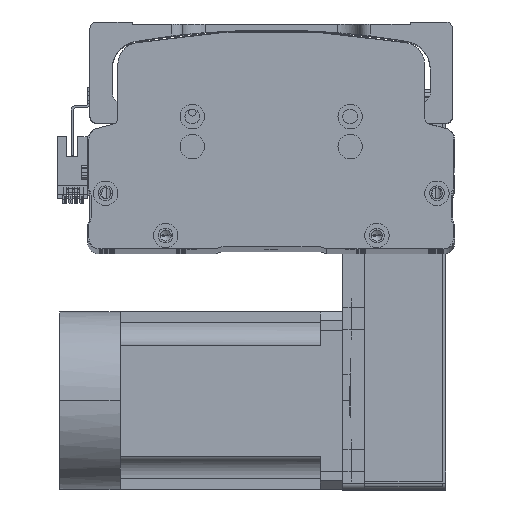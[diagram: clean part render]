
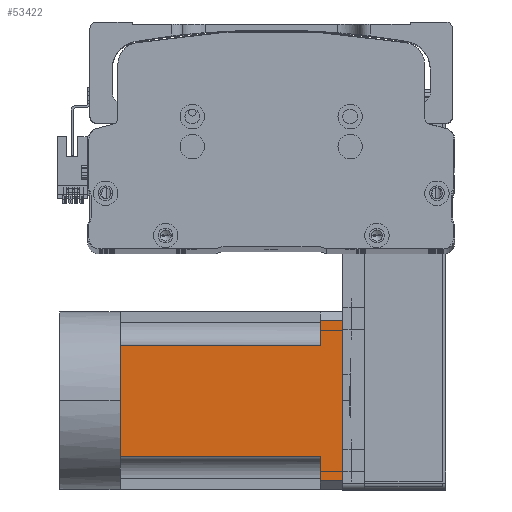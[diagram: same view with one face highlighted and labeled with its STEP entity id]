
A CAD part, top view. The second image highlights one B-rep face of the part: STEP entity #53422.
In plain terms, the highlighted planar face has unit normal (0, 0, 1) as drawn and (0, 0, -1) by its records, which use the part's own axes.
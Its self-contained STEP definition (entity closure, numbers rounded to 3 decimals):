
#1300 = CARTESIAN_POINT ( 'NONE',  ( -40., 0., -40. ) ) ;
#1357 = VERTEX_POINT ( 'NONE', #3457 ) ;
#1373 = LINE ( 'NONE', #5019, #41710 ) ;
#2095 = PLANE ( 'NONE',  #33588 ) ;
#2135 = ORIENTED_EDGE ( 'NONE', *, *, #18610, .T. ) ;
#2851 = LINE ( 'NONE', #51837, #55142 ) ;
#3457 = CARTESIAN_POINT ( 'NONE',  ( 0., 0., -40. ) ) ;
#5019 = CARTESIAN_POINT ( 'NONE',  ( -40., 100., -40. ) ) ;
#7396 = CARTESIAN_POINT ( 'NONE',  ( -40., -27., -40. ) ) ;
#7603 = LINE ( 'NONE', #13838, #34512 ) ;
#7858 = EDGE_CURVE ( 'NONE', #38852, #61288, #43233, .T. ) ;
#9202 = VECTOR ( 'NONE', #61281, 1000. ) ;
#10220 = DIRECTION ( 'NONE',  ( -1., 0., 0. ) ) ;
#10754 = CARTESIAN_POINT ( 'NONE',  ( -36., -27., -40. ) ) ;
#11383 = ORIENTED_EDGE ( 'NONE', *, *, #36274, .T. ) ;
#12273 = DIRECTION ( 'NONE',  ( 0., 0., -1. ) ) ;
#12815 = CARTESIAN_POINT ( 'NONE',  ( 36., 100., -40. ) ) ;
#13838 = CARTESIAN_POINT ( 'NONE',  ( 25., -27., -40. ) ) ;
#14523 = CARTESIAN_POINT ( 'NONE',  ( 36., -27., -40. ) ) ;
#15298 = CARTESIAN_POINT ( 'NONE',  ( -40., 90., -40. ) ) ;
#15525 = VERTEX_POINT ( 'NONE', #26216 ) ;
#16307 = VECTOR ( 'NONE', #47278, 1000. ) ;
#16722 = EDGE_CURVE ( 'NONE', #59552, #57904, #65757, .T. ) ;
#17533 = VERTEX_POINT ( 'NONE', #12815 ) ;
#17814 = EDGE_CURVE ( 'NONE', #17533, #37389, #1373, .T. ) ;
#18610 = EDGE_CURVE ( 'NONE', #61288, #47684, #2851, .T. ) ;
#19634 = DIRECTION ( 'NONE',  ( 0., -1., 0. ) ) ;
#20685 = EDGE_CURVE ( 'NONE', #57904, #15525, #7603, .T. ) ;
#21250 = ORIENTED_EDGE ( 'NONE', *, *, #25893, .T. ) ;
#21484 = DIRECTION ( 'NONE',  ( -1., 0., 0. ) ) ;
#24988 = CARTESIAN_POINT ( 'NONE',  ( -36., 90., -40. ) ) ;
#25893 = EDGE_CURVE ( 'NONE', #47684, #37389, #48010, .T. ) ;
#26216 = CARTESIAN_POINT ( 'NONE',  ( 25., 0., -40. ) ) ;
#28540 = EDGE_CURVE ( 'NONE', #17533, #59552, #37385, .T. ) ;
#28932 = EDGE_CURVE ( 'NONE', #15525, #1357, #44470, .T. ) ;
#30198 = DIRECTION ( 'NONE',  ( -1., 0., 0. ) ) ;
#30942 = VECTOR ( 'NONE', #48124, 1000. ) ;
#32155 = LINE ( 'NONE', #1300, #44087 ) ;
#32384 = CARTESIAN_POINT ( 'NONE',  ( 25., 90., -40. ) ) ;
#33359 = ORIENTED_EDGE ( 'NONE', *, *, #7858, .T. ) ;
#33588 = AXIS2_PLACEMENT_3D ( 'NONE', #7396, #12273, #42790 ) ;
#34512 = VECTOR ( 'NONE', #49270, 1000. ) ;
#34535 = ORIENTED_EDGE ( 'NONE', *, *, #17814, .F. ) ;
#36274 = EDGE_CURVE ( 'NONE', #1357, #38852, #32155, .T. ) ;
#37385 = LINE ( 'NONE', #14523, #59652 ) ;
#37389 = VERTEX_POINT ( 'NONE', #47512 ) ;
#38578 = CARTESIAN_POINT ( 'NONE',  ( -25., 90., -40. ) ) ;
#38852 = VERTEX_POINT ( 'NONE', #47692 ) ;
#41710 = VECTOR ( 'NONE', #30198, 1000. ) ;
#41952 = CARTESIAN_POINT ( 'NONE',  ( -25., -27., -40. ) ) ;
#42790 = DIRECTION ( 'NONE',  ( -1., 0., 0. ) ) ;
#43233 = LINE ( 'NONE', #41952, #16307 ) ;
#43979 = ORIENTED_EDGE ( 'NONE', *, *, #20685, .T. ) ;
#44087 = VECTOR ( 'NONE', #62198, 1000. ) ;
#44470 = LINE ( 'NONE', #53262, #30942 ) ;
#47278 = DIRECTION ( 'NONE',  ( 0., 1., 0. ) ) ;
#47512 = CARTESIAN_POINT ( 'NONE',  ( -36., 100., -40. ) ) ;
#47684 = VERTEX_POINT ( 'NONE', #24988 ) ;
#47692 = CARTESIAN_POINT ( 'NONE',  ( -25., 0., -40. ) ) ;
#48010 = LINE ( 'NONE', #10754, #9202 ) ;
#48124 = DIRECTION ( 'NONE',  ( -1., 0., 0. ) ) ;
#49270 = DIRECTION ( 'NONE',  ( 0., -1., 0. ) ) ;
#49674 = ORIENTED_EDGE ( 'NONE', *, *, #16722, .T. ) ;
#51837 = CARTESIAN_POINT ( 'NONE',  ( -40., 90., -40. ) ) ;
#53262 = CARTESIAN_POINT ( 'NONE',  ( -40., 0., -40. ) ) ;
#53422 = ADVANCED_FACE ( 'NONE', ( #65524 ), #2095, .T. ) ;
#53877 = VECTOR ( 'NONE', #10220, 1000. ) ;
#55142 = VECTOR ( 'NONE', #21484, 1000. ) ;
#55970 = ORIENTED_EDGE ( 'NONE', *, *, #28932, .T. ) ;
#56281 = ORIENTED_EDGE ( 'NONE', *, *, #28540, .T. ) ;
#56374 = CARTESIAN_POINT ( 'NONE',  ( 36., 90., -40. ) ) ;
#57739 = EDGE_LOOP ( 'NONE', ( #34535, #56281, #49674, #43979, #55970, #11383, #33359, #2135, #21250 ) ) ;
#57904 = VERTEX_POINT ( 'NONE', #32384 ) ;
#59552 = VERTEX_POINT ( 'NONE', #56374 ) ;
#59652 = VECTOR ( 'NONE', #19634, 1000. ) ;
#61281 = DIRECTION ( 'NONE',  ( 0., 1., 0. ) ) ;
#61288 = VERTEX_POINT ( 'NONE', #38578 ) ;
#62198 = DIRECTION ( 'NONE',  ( -1., 0., 0. ) ) ;
#65524 = FACE_OUTER_BOUND ( 'NONE', #57739, .T. ) ;
#65757 = LINE ( 'NONE', #15298, #53877 ) ;
